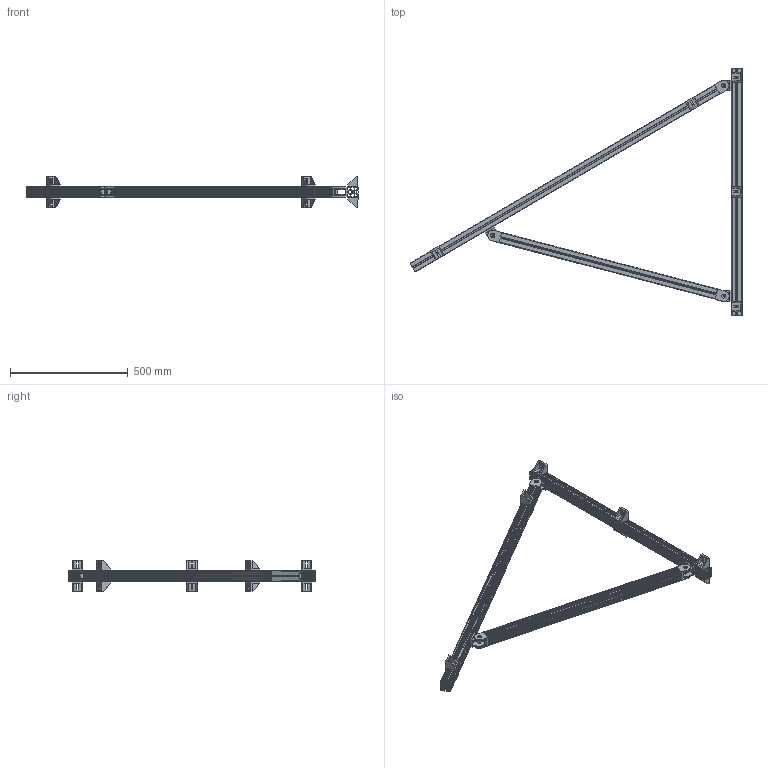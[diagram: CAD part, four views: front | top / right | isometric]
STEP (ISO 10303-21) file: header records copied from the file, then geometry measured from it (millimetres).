
FILE_DESCRIPTION (( 'STEP AP203' ), '1' );
FILE_NAME ('084.106.500.STEP', '2013-01-24T10:27:25', ( 'Alusic' ), ( 'Alusic' ), 'SwSTEP 2.0', 'SolidWorks 2011', '' );
FILE_SCHEMA (( 'CONFIG_CONTROL_DESIGN' ));
Length unit declared in the file: millimetre
Products named in the file (7): 084.106.500; 084.305.003; 084.106.503_Default<A macchina>; 084.106.502_Default<A macchina>; 084.311.001B; 084.311.001A; 084.106.501_Default<A macchina>
Assembly tree (19 placements, depth 2):
  084.106.500
    084.305.003  x10
    084.106.503_Default<A macchina>
    084.311.001A  x3
    084.106.502_Default<A macchina>
    084.311.001B  x3
    084.106.501_Default<A macchina>
Bounding box: 1411.96 x 1050 x 131 mm (x, y, z)
Volume: 2483519.4 mm3; surface area: 2171384.8 mm2
Topology: 19 solids, 19 shells, 815 faces, 2261 edges, 1490 vertices
Faces by surface type: plane 536, cylinder 267, cone 12
Entity records: 17900 total; most frequent: CARTESIAN_POINT 2954, DIRECTION 2951, ORIENTED_EDGE 2918, EDGE_CURVE 1459, VECTOR 1017, LINE 1017, VERTEX_POINT 970, AXIS2_PLACEMENT_3D 967
